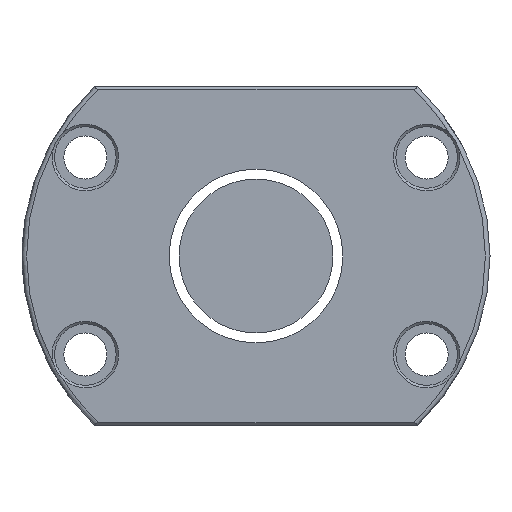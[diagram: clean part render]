
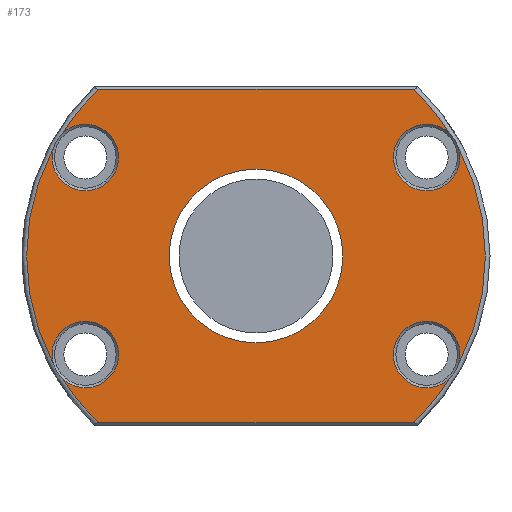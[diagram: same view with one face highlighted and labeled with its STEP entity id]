
A CAD part, left-side view. The second image highlights one B-rep face of the part: STEP entity #173.
In plain terms, the highlighted planar face has unit normal (-1, 0, 0).
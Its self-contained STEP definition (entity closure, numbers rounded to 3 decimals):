
#6 = CIRCLE ( 'NONE', #886, 74.5 ) ;
#16 = EDGE_CURVE ( 'NONE', #1884, #1019, #1458, .T. ) ;
#18 = ORIENTED_EDGE ( 'NONE', *, *, #2583, .T. ) ;
#66 = DIRECTION ( 'NONE',  ( 0., 0., 1. ) ) ;
#70 = DIRECTION ( 'NONE',  ( 0., 1., 0. ) ) ;
#79 = EDGE_CURVE ( 'NONE', #1656, #3182, #260, .T. ) ;
#80 = ORIENTED_EDGE ( 'NONE', *, *, #681, .T. ) ;
#85 = DIRECTION ( 'NONE',  ( -1., 0., 0. ) ) ;
#173 = ADVANCED_FACE ( 'NONE', ( #2651, #628 ), #1425, .T. ) ;
#177 = VECTOR ( 'NONE', #70, 1000. ) ;
#182 = EDGE_CURVE ( 'NONE', #1497, #1242, #6, .T. ) ;
#206 = CARTESIAN_POINT ( 'NONE',  ( -121., -65.839, 34.863 ) ) ;
#242 = ORIENTED_EDGE ( 'NONE', *, *, #2078, .T. ) ;
#260 = CIRCLE ( 'NONE', #2863, 74.5 ) ;
#276 = CIRCLE ( 'NONE', #2361, 28.2 ) ;
#279 = CIRCLE ( 'NONE', #1592, 10.8 ) ;
#287 = DIRECTION ( 'NONE',  ( 1., 0., 0. ) ) ;
#301 = DIRECTION ( 'NONE',  ( 1., 0., 0. ) ) ;
#318 = CARTESIAN_POINT ( 'NONE',  ( -121., -52.45, -54.2 ) ) ;
#346 = DIRECTION ( 'NONE',  ( -1., 0., 0. ) ) ;
#363 = CARTESIAN_POINT ( 'NONE',  ( -121., 0., 0. ) ) ;
#381 = CARTESIAN_POINT ( 'NONE',  ( -121., 0., 0. ) ) ;
#389 = CARTESIAN_POINT ( 'NONE',  ( -121., 76., 0. ) ) ;
#452 = VERTEX_POINT ( 'NONE', #1478 ) ;
#465 = CARTESIAN_POINT ( 'NONE',  ( -121., -63.112, 39.587 ) ) ;
#512 = ORIENTED_EDGE ( 'NONE', *, *, #1948, .T. ) ;
#520 = AXIS2_PLACEMENT_3D ( 'NONE', #1108, #85, #2526 ) ;
#583 = DIRECTION ( 'NONE',  ( 0., 0., 1. ) ) ;
#600 = DIRECTION ( 'NONE',  ( 1., 0., 0. ) ) ;
#628 = FACE_BOUND ( 'NONE', #895, .T. ) ;
#636 = ORIENTED_EDGE ( 'NONE', *, *, #2920, .T. ) ;
#640 = CARTESIAN_POINT ( 'NONE',  ( -121., 0., -28.2 ) ) ;
#641 = AXIS2_PLACEMENT_3D ( 'NONE', #363, #346, #2295 ) ;
#670 = CARTESIAN_POINT ( 'NONE',  ( -121., 63.112, 39.587 ) ) ;
#681 = EDGE_CURVE ( 'NONE', #2468, #1884, #2811, .T. ) ;
#697 = EDGE_LOOP ( 'NONE', ( #636, #80, #2500, #971, #18, #512, #2390, #1729, #1733, #2661, #804, #1256 ) ) ;
#772 = CARTESIAN_POINT ( 'NONE',  ( -121., -55.426, 32. ) ) ;
#804 = ORIENTED_EDGE ( 'NONE', *, *, #817, .T. ) ;
#807 = LINE ( 'NONE', #318, #2454 ) ;
#817 = EDGE_CURVE ( 'NONE', #452, #1497, #1368, .T. ) ;
#824 = DIRECTION ( 'NONE',  ( 0., 0., 1. ) ) ;
#851 = CIRCLE ( 'NONE', #2560, 74.5 ) ;
#886 = AXIS2_PLACEMENT_3D ( 'NONE', #2367, #2869, #1935 ) ;
#895 = EDGE_LOOP ( 'NONE', ( #242 ) ) ;
#971 = ORIENTED_EDGE ( 'NONE', *, *, #1414, .T. ) ;
#1019 = VERTEX_POINT ( 'NONE', #2917 ) ;
#1040 = AXIS2_PLACEMENT_3D ( 'NONE', #389, #1384, #1662 ) ;
#1108 = CARTESIAN_POINT ( 'NONE',  ( -121., 0., 0. ) ) ;
#1180 = VERTEX_POINT ( 'NONE', #640 ) ;
#1209 = CARTESIAN_POINT ( 'NONE',  ( -121., 51.114, 54.2 ) ) ;
#1242 = VERTEX_POINT ( 'NONE', #2986 ) ;
#1251 = AXIS2_PLACEMENT_3D ( 'NONE', #2290, #1355, #66 ) ;
#1256 = ORIENTED_EDGE ( 'NONE', *, *, #182, .T. ) ;
#1291 = DIRECTION ( 'NONE',  ( 1., 0., 0. ) ) ;
#1312 = CARTESIAN_POINT ( 'NONE',  ( -121., 63.112, -39.587 ) ) ;
#1355 = DIRECTION ( 'NONE',  ( 1., 0., 0. ) ) ;
#1368 = CIRCLE ( 'NONE', #1251, 10.8 ) ;
#1384 = DIRECTION ( 'NONE',  ( -1., 0., 0. ) ) ;
#1414 = EDGE_CURVE ( 'NONE', #1019, #2743, #851, .T. ) ;
#1425 = PLANE ( 'NONE',  #1040 ) ;
#1434 = VERTEX_POINT ( 'NONE', #2538 ) ;
#1458 = CIRCLE ( 'NONE', #2696, 10.8 ) ;
#1478 = CARTESIAN_POINT ( 'NONE',  ( -121., 65.839, -34.863 ) ) ;
#1497 = VERTEX_POINT ( 'NONE', #1312 ) ;
#1544 = CARTESIAN_POINT ( 'NONE',  ( -121., -51.114, 54.2 ) ) ;
#1571 = CARTESIAN_POINT ( 'NONE',  ( -121., 0., 0. ) ) ;
#1586 = CIRCLE ( 'NONE', #641, 74.5 ) ;
#1592 = AXIS2_PLACEMENT_3D ( 'NONE', #2827, #301, #824 ) ;
#1656 = VERTEX_POINT ( 'NONE', #1209 ) ;
#1662 = DIRECTION ( 'NONE',  ( 0., 0., 1. ) ) ;
#1728 = DIRECTION ( 'NONE',  ( 0., 0., 1. ) ) ;
#1729 = ORIENTED_EDGE ( 'NONE', *, *, #79, .T. ) ;
#1733 = ORIENTED_EDGE ( 'NONE', *, *, #2964, .T. ) ;
#1814 = DIRECTION ( 'NONE',  ( -1., 0., 0. ) ) ;
#1884 = VERTEX_POINT ( 'NONE', #2039 ) ;
#1935 = DIRECTION ( 'NONE',  ( 0., 0., 1. ) ) ;
#1948 = EDGE_CURVE ( 'NONE', #2479, #2948, #1586, .T. ) ;
#1988 = EDGE_CURVE ( 'NONE', #2948, #1656, #2834, .T. ) ;
#2039 = CARTESIAN_POINT ( 'NONE',  ( -121., -63.112, -39.587 ) ) ;
#2078 = EDGE_CURVE ( 'NONE', #1180, #1180, #276, .T. ) ;
#2082 = EDGE_CURVE ( 'NONE', #1434, #452, #2564, .T. ) ;
#2109 = AXIS2_PLACEMENT_3D ( 'NONE', #3063, #1814, #583 ) ;
#2259 = CARTESIAN_POINT ( 'NONE',  ( -121., -51.114, -54.2 ) ) ;
#2282 = DIRECTION ( 'NONE',  ( 0., 0., 1. ) ) ;
#2290 = CARTESIAN_POINT ( 'NONE',  ( -121., 55.426, -32. ) ) ;
#2295 = DIRECTION ( 'NONE',  ( 0., 0., 1. ) ) ;
#2361 = AXIS2_PLACEMENT_3D ( 'NONE', #381, #600, #2548 ) ;
#2367 = CARTESIAN_POINT ( 'NONE',  ( -121., 0., 0. ) ) ;
#2390 = ORIENTED_EDGE ( 'NONE', *, *, #1988, .T. ) ;
#2424 = DIRECTION ( 'NONE',  ( -1., 0., 0. ) ) ;
#2453 = CIRCLE ( 'NONE', #2876, 10.8 ) ;
#2454 = VECTOR ( 'NONE', #2791, 1000. ) ;
#2457 = CARTESIAN_POINT ( 'NONE',  ( -121., 0., 0. ) ) ;
#2468 = VERTEX_POINT ( 'NONE', #2259 ) ;
#2479 = VERTEX_POINT ( 'NONE', #465 ) ;
#2500 = ORIENTED_EDGE ( 'NONE', *, *, #16, .T. ) ;
#2526 = DIRECTION ( 'NONE',  ( 0., 0., 1. ) ) ;
#2538 = CARTESIAN_POINT ( 'NONE',  ( -121., 65.839, 34.863 ) ) ;
#2548 = DIRECTION ( 'NONE',  ( 0., 0., -1. ) ) ;
#2551 = DIRECTION ( 'NONE',  ( -1., 0., 0. ) ) ;
#2560 = AXIS2_PLACEMENT_3D ( 'NONE', #2457, #2424, #2732 ) ;
#2564 = CIRCLE ( 'NONE', #2109, 74.5 ) ;
#2583 = EDGE_CURVE ( 'NONE', #2743, #2479, #2453, .T. ) ;
#2651 = FACE_OUTER_BOUND ( 'NONE', #697, .T. ) ;
#2661 = ORIENTED_EDGE ( 'NONE', *, *, #2082, .T. ) ;
#2696 = AXIS2_PLACEMENT_3D ( 'NONE', #2852, #1291, #2282 ) ;
#2732 = DIRECTION ( 'NONE',  ( 0., 0., 1. ) ) ;
#2743 = VERTEX_POINT ( 'NONE', #206 ) ;
#2791 = DIRECTION ( 'NONE',  ( 0., -1., 0. ) ) ;
#2811 = CIRCLE ( 'NONE', #520, 74.5 ) ;
#2814 = CARTESIAN_POINT ( 'NONE',  ( -121., 52.45, 54.2 ) ) ;
#2827 = CARTESIAN_POINT ( 'NONE',  ( -121., 55.426, 32. ) ) ;
#2834 = LINE ( 'NONE', #2814, #177 ) ;
#2852 = CARTESIAN_POINT ( 'NONE',  ( -121., -55.426, -32. ) ) ;
#2863 = AXIS2_PLACEMENT_3D ( 'NONE', #1571, #2551, #3067 ) ;
#2869 = DIRECTION ( 'NONE',  ( -1., 0., 0. ) ) ;
#2876 = AXIS2_PLACEMENT_3D ( 'NONE', #772, #287, #1728 ) ;
#2917 = CARTESIAN_POINT ( 'NONE',  ( -121., -65.839, -34.863 ) ) ;
#2920 = EDGE_CURVE ( 'NONE', #1242, #2468, #807, .T. ) ;
#2948 = VERTEX_POINT ( 'NONE', #1544 ) ;
#2964 = EDGE_CURVE ( 'NONE', #3182, #1434, #279, .T. ) ;
#2986 = CARTESIAN_POINT ( 'NONE',  ( -121., 51.114, -54.2 ) ) ;
#3063 = CARTESIAN_POINT ( 'NONE',  ( -121., 0., 0. ) ) ;
#3067 = DIRECTION ( 'NONE',  ( 0., 0., 1. ) ) ;
#3182 = VERTEX_POINT ( 'NONE', #670 ) ;
